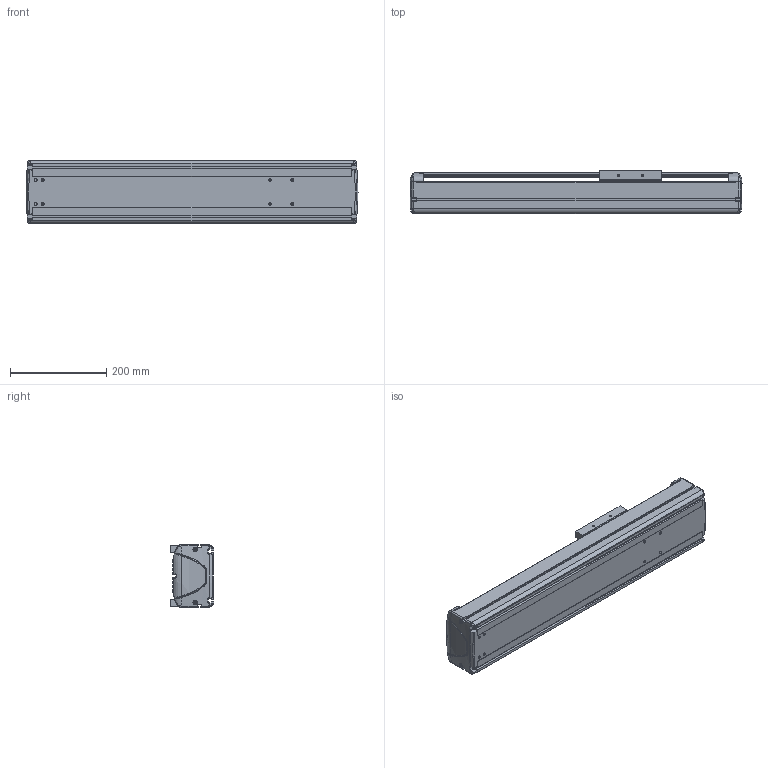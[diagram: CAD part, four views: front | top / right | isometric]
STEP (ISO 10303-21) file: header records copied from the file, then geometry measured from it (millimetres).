
FILE_DESCRIPTION((''),'2;1');
FILE_NAME('BE30E-ST-M_N-35_IGS_PRT','2017-06-17T',(' '),(''),'PRO/ENGINEER BY PARAMETRIC TECHNOLOGY CORPORATION, 2015030','PRO/ENGINEER BY PARAMETRIC TECHNOLOGY CORPORATION, 2015030','');
FILE_SCHEMA(('CONFIG_CONTROL_DESIGN'));
Length unit declared in the file: millimetre
Products named in the file (1): BE30E-ST-M_N-35_IGS_PRT
Bounding box: 690 x 89.8 x 130 mm (x, y, z)
Volume: 2378865.8 mm3; surface area: 861647.8 mm2
Topology: 2 solids, 68 shells, 1297 faces, 3456 edges, 2244 vertices
Faces by surface type: plane 598, cylinder 539, bspline 58, torus 46, cone 32, sphere 24
Entity records: 43274 total; most frequent: CARTESIAN_POINT 10929, DIRECTION 6650, ORIENTED_EDGE 6609, EDGE_CURVE 3436, AXIS2_PLACEMENT_3D 2373, VERTEX_POINT 2244, VECTOR 1904, LINE 1904
